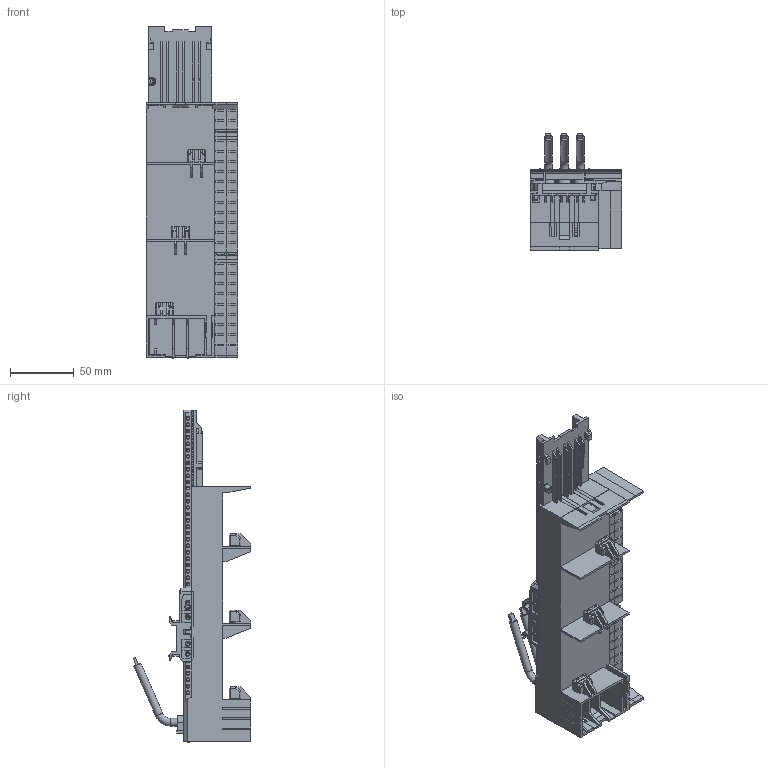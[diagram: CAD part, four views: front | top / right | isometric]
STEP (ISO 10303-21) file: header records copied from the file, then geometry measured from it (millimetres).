
FILE_DESCRIPTION (( 'STEP AP203' ), '1' );
FILE_NAME ('55376.STEP', '2021-08-18T06:37:40', ( '' ), ( '' ), 'SwSTEP 2.0', 'SolidWorks 2017', '' );
FILE_SCHEMA (( 'CONFIG_CONTROL_DESIGN' ));
Products named in the file (2): 55376
Bounding box: 72.05 x 92.2 x 260.2 mm (x, y, z)
Volume: 413421.9 mm3; surface area: 142145.5 mm2
Topology: 9 solids, 26 shells, 2725 faces, 7536 edges, 5060 vertices
Faces by surface type: plane 1928, cylinder 510, cone 214, bspline 70, torus 3
Full cylindrical faces by diameter (mm): 1.988 x176, 2.584 x1, 2.6 x14, 2.982 x6, 3.479 x4, 4.2 x2, 5.169 x2, 5.964 x7, 6 x6
Entity records: 108439 total; most frequent: CARTESIAN_POINT 43677, ORIENTED_EDGE 13874, DIRECTION 11588, EDGE_CURVE 6937, VERTEX_POINT 4883, LINE 4640, VECTOR 4640, AXIS2_PLACEMENT_3D 3474
